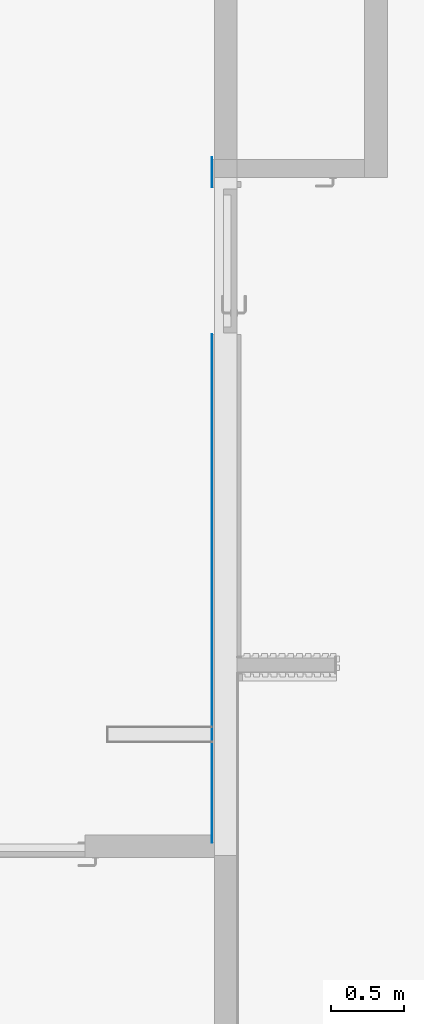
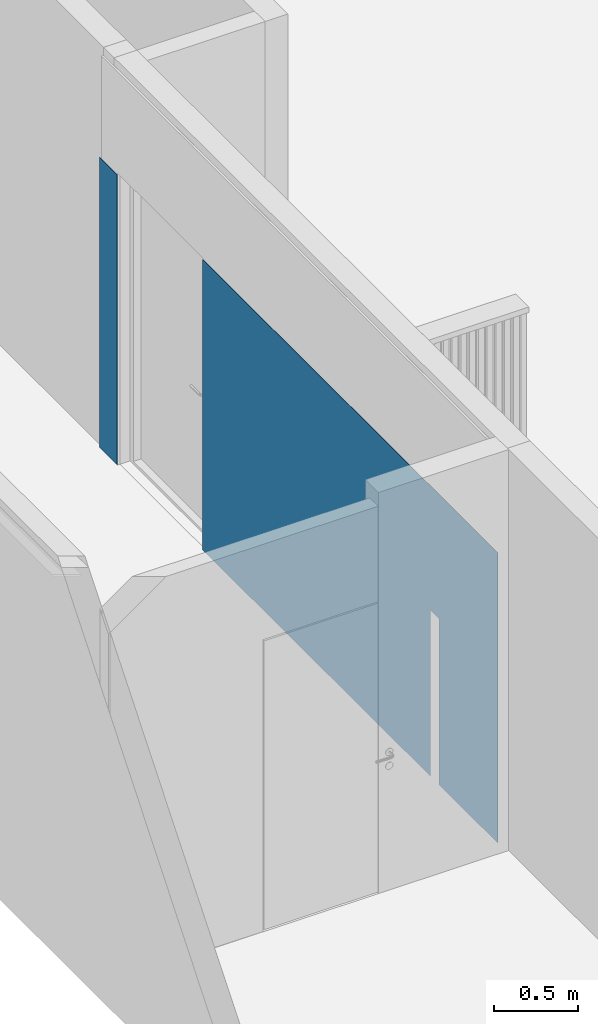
# One storey, part 28 of 37: 1 wall.
"""IFC2X3 building model written with IfcOpenShell, lengths in millimetres."""

from ifc_helpers import new_model, entity, si_unit, converted_unit, derived_unit, direction, frame, origin_with_axes, place, context, subcontext, project, spatial, faceted_brep, material, layer, layer_set, type_object, element, save


model = new_model("IFC2X3")

# Units and contexts
model_context = context("Model", 3, precision=0.01, world=frame((0.0, 4.29681676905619e-09, 0.0)), true_north=direction((4.01073788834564e-13, 1.0)))
plan_context = context("Plan", 3, precision=0.01, world=frame((0.0, 4.29681676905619e-09, 0.0)), true_north=direction((4.01073788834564e-13, 1.0)))
body_context = subcontext(model_context, "Body", "Model", "MODEL_VIEW")
ifc_project = project(units=[converted_unit("PLANEANGLEUNIT", "DEGREE", entity("IfcPositiveLengthMeasure", 0.0174532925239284), si_unit("PLANEANGLEUNIT", "RADIAN"), dimensions=[0, 0, 0, 0, 0, 0, 0]), si_unit("AREAUNIT", "SQUARE_METRE"), si_unit("LENGTHUNIT", "METRE", prefix="MILLI"), si_unit("MASSUNIT", "GRAM", prefix="KILO"), si_unit("POWERUNIT", "WATT"), si_unit("PRESSUREUNIT", "PASCAL"), si_unit("FORCEUNIT", "NEWTON", prefix="KILO"), si_unit("ELECTRICVOLTAGEUNIT", "VOLT"), si_unit("ELECTRICCURRENTUNIT", "AMPERE"), si_unit("THERMODYNAMICTEMPERATUREUNIT", "DEGREE_CELSIUS"), si_unit("TIMEUNIT", "SECOND"), si_unit("VOLUMEUNIT", "CUBIC_METRE"), derived_unit("LINEARVELOCITYUNIT", [(si_unit("LENGTHUNIT", "METRE"), 1), (si_unit("TIMEUNIT", "SECOND"), -1)]), derived_unit("VOLUMETRICFLOWRATEUNIT", [(si_unit("VOLUMEUNIT", "CUBIC_METRE"), 1), (si_unit("TIMEUNIT", "SECOND"), -1)]), derived_unit("THERMALTRANSMITTANCEUNIT", [(si_unit("POWERUNIT", "WATT"), 1), (si_unit("THERMODYNAMICTEMPERATUREUNIT", "KELVIN"), -1), (si_unit("AREAUNIT", "SQUARE_METRE"), -1)]), derived_unit("SOUNDPRESSUREUNIT", [(si_unit("PRESSUREUNIT", "PASCAL"), 1)])], contexts=[model_context, plan_context])

# Site, building, storey
site_placement = place(None, origin_with_axes())
site = spatial("IfcSite", under=ifc_project, at=site_placement, Name="ENGM", CompositionType="ELEMENT")
building_placement = place(site_placement, origin_with_axes())
building = spatial("IfcBuilding", under=site, at=building_placement, Name="TS", CompositionType="ELEMENT")
storey_placement = place(building_placement, frame((0.0, 0.0, 210900.0), z_axis=(0.0, 0.0, 1.0), x_axis=(1.0, 0.0, 0.0)))
storey = spatial("IfcBuildingStorey", under=building, at=storey_placement, Name="Nivå F", CompositionType="ELEMENT", Elevation=210900.0)

# Wall
ifc_material = material(Name="T2_baderomspanel")
ifc_layer = layer(ifc_material, 2.5)
ifc_layer_set = layer_set([ifc_layer], Name="Basic Wall:A231 - KL-K06")
wall_type = type_object("IfcWallType", Name="Basic Wall:A231 - KL-K06", PredefinedType="STANDARD", material=ifc_layer_set)
wall_placement = place(storey_placement, frame((523363.250000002, 455432.340519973, 0.0), z_axis=(0.0, 0.0, 1.0), x_axis=(0.0, -1.0, 0.0)))
element("IfcWall", 1, at=wall_placement, inside=storey, type_object=wall_type, Name="Basic Wall:A231 - KL-K06", ObjectType="Basic Wall:A231 - KL-K06", context=body_context, shape_type="Brep", body=[
    faceted_brep([(0.0, -1.25, 2100.0), (0.0, -1.25, 0.0), (208.5, -1.25, 0.0), (208.5, -1.25, 2100.0), (0.0, 1.25, 2100.0), (0.0, 1.25, 0.0), (17.5, 1.25, 0.0), (208.5, 1.25, 0.0), (208.5, 1.25, 2100.0)], [[[0, 1, 2, 3]], [[1, 0, 4, 5]], [[1, 5, 6, 7, 2]], [[3, 2, 7, 8]], [[4, 0, 3, 8]], [[5, 4, 8, 7, 6]]]),
    faceted_brep([(4020.31139953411, 1.25, 1200.0), (4017.81139953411, 1.25, 1200.0), (3917.81139953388, 1.25, 1200.0), (3917.81139953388, 1.25, 0.0), (1218.49999999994, 1.25, 0.0), (1218.49999999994, 1.25, 2100.0), (4713.53227886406, 1.25, 2100.0), (4713.53227886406, 1.25, 0.0), (4712.28227886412, 1.25, 0.0), (4020.31139953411, 1.25, 0.0), (4713.53227886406, -1.25, 2100.0), (1218.49999999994, -1.25, 2100.0), (4020.31139953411, -1.25, 1200.0), (3917.81139953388, -1.25, 1200.0), (4713.53227886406, -1.25, 0.0), (4020.31139953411, -1.25, 0.0), (3917.81139953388, -1.25, 0.0), (1218.49999999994, -1.25, 0.0), (3915.31139953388, -1.25, 0.0)], [[[0, 1, 2, 3, 4, 5, 6, 7, 8, 9]], [[10, 6, 5, 11]], [[12, 13, 2, 1, 0]], [[14, 15, 9, 8, 7]], [[10, 14, 7, 6]], [[13, 16, 3, 2]], [[15, 12, 0, 9]], [[17, 11, 5, 4]], [[3, 16, 18, 17, 4]], [[13, 12, 15, 14, 10, 11, 17, 18, 16]]]),
])

save(model, "model.ifc")
